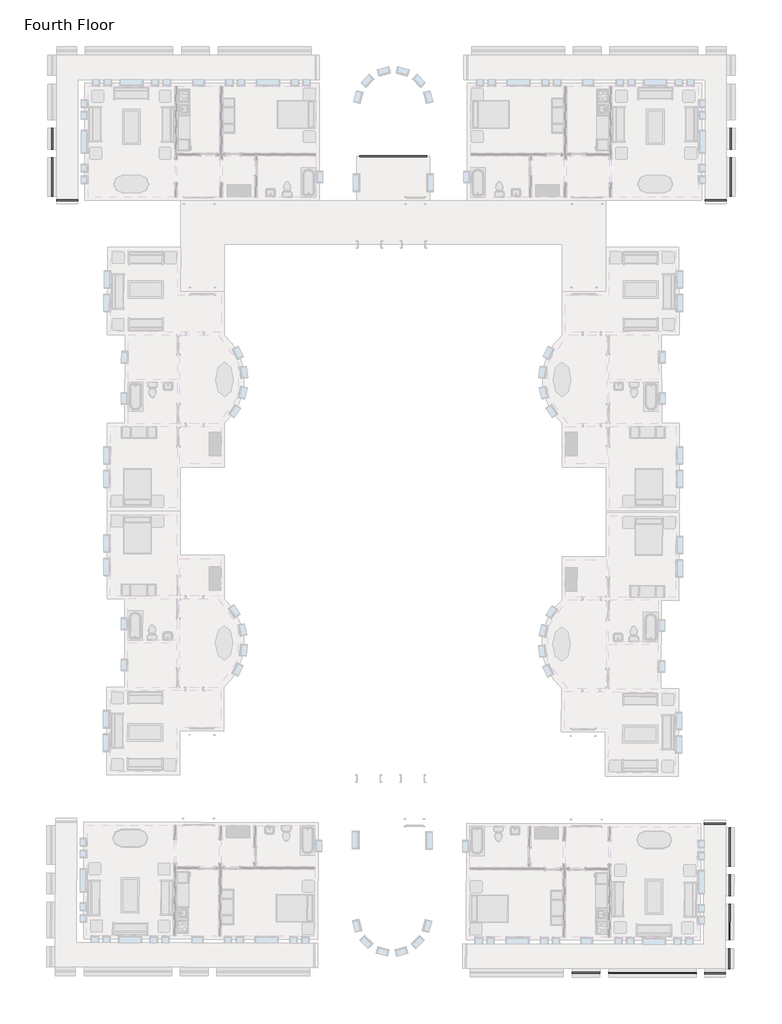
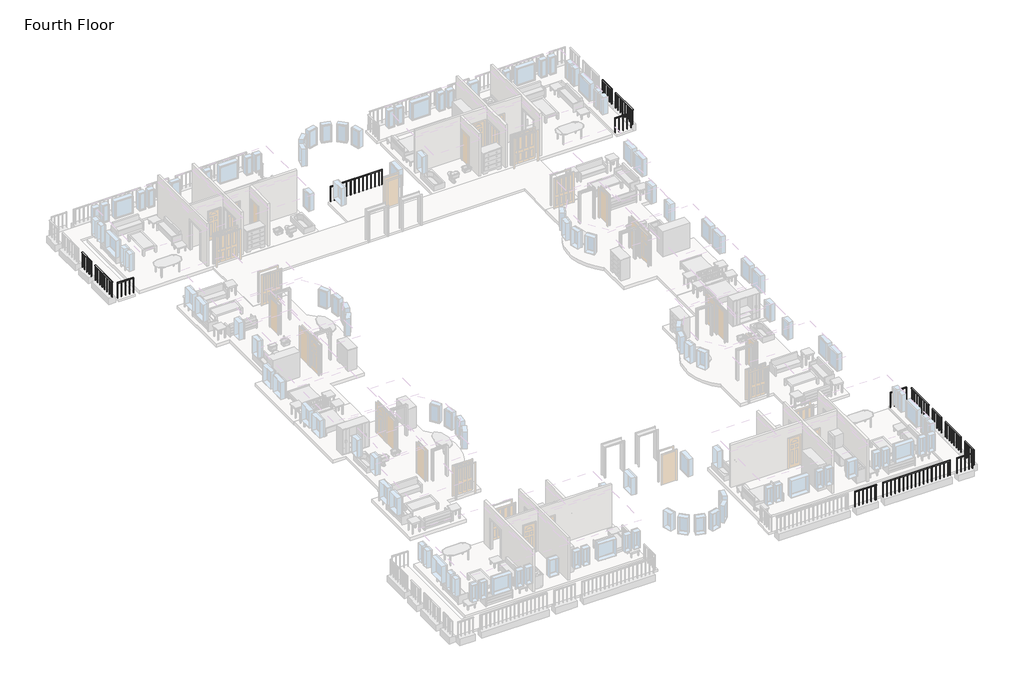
# One storey, part 5 of 8: 15 railings.
"""IFC4 building model written with IfcOpenShell, lengths in millimetres."""

from ifc_helpers import new_model, si_unit, frame, origin, place, context, project, spatial, polyline, outline, extrude, element, save

model = new_model("IFC4")

# Units and contexts
model_context = context("Model", 3, world=origin())
ifc_project = project(units=[si_unit("LENGTHUNIT", "METRE", prefix="MILLI")], contexts=[model_context])

# Site, building, storey
site = spatial("IfcSite", under=ifc_project)
building = spatial("IfcBuilding", under=site)
storey = spatial("IfcBuildingStorey", under=building, Name="Fourth Floor", Elevation=9144.0)

# Railings
placement = place(None, origin())
element("IfcRailing", 1, ObjectType="1100mm", at=placement, inside=storey, context=model_context, shape_type="SweptSolid", body=[
    extrude(outline(polyline([(-1443.3416203, 231.1188386), (-1393.3416203, 231.1188386), (-1393.3416203, -845.3811614), (-1443.3416203, -845.3811614), (-1443.3416203, 231.1188386)])), frame((0.0, 0.0, 10194.0), z_axis=(0.0, 0.0, 1.0), x_axis=(1.0, 0.0, 0.0)), (0.0, 0.0, 1.0), 50.0),
    extrude(outline(polyline([(-1430.8416203, -581.3811614), (-1405.8416203, -581.3811614), (-1405.8416203, -606.3811614), (-1430.8416203, -606.3811614), (-1430.8416203, -581.3811614)])), frame((0.0, 0.0, 9144.0), z_axis=(0.0, 0.0, 1.0), x_axis=(1.0, 0.0, 0.0)), (0.0, 0.0, 1.0), 1050.0),
    extrude(outline(polyline([(-1430.8416203, -306.3811614), (-1405.8416203, -306.3811614), (-1405.8416203, -331.3811614), (-1430.8416203, -331.3811614), (-1430.8416203, -306.3811614)])), frame((0.0, 0.0, 9144.0), z_axis=(0.0, 0.0, 1.0), x_axis=(1.0, 0.0, 0.0)), (0.0, 0.0, 1.0), 1050.0),
    extrude(outline(polyline([(-1430.8416203, -31.3811614), (-1405.8416203, -31.3811614), (-1405.8416203, -56.3811614), (-1430.8416203, -56.3811614), (-1430.8416203, -31.3811614)])), frame((0.0, 0.0, 9144.0), z_axis=(0.0, 0.0, 1.0), x_axis=(1.0, 0.0, 0.0)), (0.0, 0.0, 1.0), 1050.0),
    extrude(outline(polyline([(-1430.8416203, -820.3811614), (-1405.8416203, -820.3811614), (-1405.8416203, -845.3811614), (-1430.8416203, -845.3811614), (-1430.8416203, -820.3811614)])), frame((0.0, 0.0, 9144.0), z_axis=(0.0, 0.0, 1.0), x_axis=(1.0, 0.0, 0.0)), (0.0, 0.0, 1.0), 1050.0),
    extrude(outline(polyline([(-1430.8416203, 231.1188386), (-1405.8416203, 231.1188386), (-1405.8416203, 206.1188386), (-1430.8416203, 206.1188386), (-1430.8416203, 231.1188386)])), frame((0.0, 0.0, 9144.0), z_axis=(0.0, 0.0, 1.0), x_axis=(1.0, 0.0, 0.0)), (0.0, 0.0, 1.0), 1050.0),
])
element("IfcRailing", 2, ObjectType="1100mm", at=placement, inside=storey, context=model_context, shape_type="SweptSolid", body=[
    extrude(outline(polyline([(-1443.3416203, -1295.3811614), (-1393.3416203, -1295.3811614), (-1393.3416203, -3289.8811614), (-1443.3416203, -3289.8811614), (-1443.3416203, -1295.3811614)])), frame((0.0, 0.0, 10194.0), z_axis=(0.0, 0.0, 1.0), x_axis=(1.0, 0.0, 0.0)), (0.0, 0.0, 1.0), 50.0),
    extrude(outline(polyline([(-1430.8416203, -3207.8811614), (-1405.8416203, -3207.8811614), (-1405.8416203, -3232.8811614), (-1430.8416203, -3232.8811614), (-1430.8416203, -3207.8811614)])), frame((0.0, 0.0, 9144.0), z_axis=(0.0, 0.0, 1.0), x_axis=(1.0, 0.0, 0.0)), (0.0, 0.0, 1.0), 1050.0),
    extrude(outline(polyline([(-1430.8416203, -2932.8811614), (-1405.8416203, -2932.8811614), (-1405.8416203, -2957.8811614), (-1430.8416203, -2957.8811614), (-1430.8416203, -2932.8811614)])), frame((0.0, 0.0, 9144.0), z_axis=(0.0, 0.0, 1.0), x_axis=(1.0, 0.0, 0.0)), (0.0, 0.0, 1.0), 1050.0),
    extrude(outline(polyline([(-1430.8416203, -2657.8811614), (-1405.8416203, -2657.8811614), (-1405.8416203, -2682.8811614), (-1430.8416203, -2682.8811614), (-1430.8416203, -2657.8811614)])), frame((0.0, 0.0, 9144.0), z_axis=(0.0, 0.0, 1.0), x_axis=(1.0, 0.0, 0.0)), (0.0, 0.0, 1.0), 1050.0),
    extrude(outline(polyline([(-1430.8416203, -2382.8811614), (-1405.8416203, -2382.8811614), (-1405.8416203, -2407.8811614), (-1430.8416203, -2407.8811614), (-1430.8416203, -2382.8811614)])), frame((0.0, 0.0, 9144.0), z_axis=(0.0, 0.0, 1.0), x_axis=(1.0, 0.0, 0.0)), (0.0, 0.0, 1.0), 1050.0),
    extrude(outline(polyline([(-1430.8416203, -2107.8811614), (-1405.8416203, -2107.8811614), (-1405.8416203, -2132.8811614), (-1430.8416203, -2132.8811614), (-1430.8416203, -2107.8811614)])), frame((0.0, 0.0, 9144.0), z_axis=(0.0, 0.0, 1.0), x_axis=(1.0, 0.0, 0.0)), (0.0, 0.0, 1.0), 1050.0),
    extrude(outline(polyline([(-1430.8416203, -1832.8811614), (-1405.8416203, -1832.8811614), (-1405.8416203, -1857.8811614), (-1430.8416203, -1857.8811614), (-1430.8416203, -1832.8811614)])), frame((0.0, 0.0, 9144.0), z_axis=(0.0, 0.0, 1.0), x_axis=(1.0, 0.0, 0.0)), (0.0, 0.0, 1.0), 1050.0),
    extrude(outline(polyline([(-1430.8416203, -1557.8811614), (-1405.8416203, -1557.8811614), (-1405.8416203, -1582.8811614), (-1430.8416203, -1582.8811614), (-1430.8416203, -1557.8811614)])), frame((0.0, 0.0, 9144.0), z_axis=(0.0, 0.0, 1.0), x_axis=(1.0, 0.0, 0.0)), (0.0, 0.0, 1.0), 1050.0),
    extrude(outline(polyline([(-1430.8416203, -3264.8811614), (-1405.8416203, -3264.8811614), (-1405.8416203, -3289.8811614), (-1430.8416203, -3289.8811614), (-1430.8416203, -3264.8811614)])), frame((0.0, 0.0, 9144.0), z_axis=(0.0, 0.0, 1.0), x_axis=(1.0, 0.0, 0.0)), (0.0, 0.0, 1.0), 1050.0),
    extrude(outline(polyline([(-1430.8416203, -1295.3811614), (-1405.8416203, -1295.3811614), (-1405.8416203, -1320.3811614), (-1430.8416203, -1320.3811614), (-1430.8416203, -1295.3811614)])), frame((0.0, 0.0, 9144.0), z_axis=(0.0, 0.0, 1.0), x_axis=(1.0, 0.0, 0.0)), (0.0, 0.0, 1.0), 1050.0),
])
element("IfcRailing", 3, ObjectType="1100mm", at=placement, inside=storey, context=model_context, shape_type="SweptSolid", body=[
    extrude(outline(polyline([(-1643.3416203, -3489.8811614), (-1643.3416203, -3539.8811614), (-2743.3416203, -3539.8811614), (-2743.3416203, -3489.8811614), (-1643.3416203, -3489.8811614)])), frame((0.0, 0.0, 10194.0), z_axis=(0.0, 0.0, 1.0), x_axis=(1.0, 0.0, 0.0)), (0.0, 0.0, 1.0), 50.0),
    extrude(outline(polyline([(-2455.8416203, -3502.3811614), (-2455.8416203, -3527.3811614), (-2480.8416203, -3527.3811614), (-2480.8416203, -3502.3811614), (-2455.8416203, -3502.3811614)])), frame((0.0, 0.0, 9144.0), z_axis=(0.0, 0.0, 1.0), x_axis=(1.0, 0.0, 0.0)), (0.0, 0.0, 1.0), 1050.0),
    extrude(outline(polyline([(-2180.8416203, -3502.3811614), (-2180.8416203, -3527.3811614), (-2205.8416203, -3527.3811614), (-2205.8416203, -3502.3811614), (-2180.8416203, -3502.3811614)])), frame((0.0, 0.0, 9144.0), z_axis=(0.0, 0.0, 1.0), x_axis=(1.0, 0.0, 0.0)), (0.0, 0.0, 1.0), 1050.0),
    extrude(outline(polyline([(-1905.8416203, -3502.3811614), (-1905.8416203, -3527.3811614), (-1930.8416203, -3527.3811614), (-1930.8416203, -3502.3811614), (-1905.8416203, -3502.3811614)])), frame((0.0, 0.0, 9144.0), z_axis=(0.0, 0.0, 1.0), x_axis=(1.0, 0.0, 0.0)), (0.0, 0.0, 1.0), 1050.0),
    extrude(outline(polyline([(-2718.3416203, -3502.3811614), (-2718.3416203, -3527.3811614), (-2743.3416203, -3527.3811614), (-2743.3416203, -3502.3811614), (-2718.3416203, -3502.3811614)])), frame((0.0, 0.0, 9144.0), z_axis=(0.0, 0.0, 1.0), x_axis=(1.0, 0.0, 0.0)), (0.0, 0.0, 1.0), 1050.0),
    extrude(outline(polyline([(-1643.3416203, -3502.3811614), (-1643.3416203, -3527.3811614), (-1668.3416203, -3527.3811614), (-1668.3416203, -3502.3811614), (-1643.3416203, -3502.3811614)])), frame((0.0, 0.0, 9144.0), z_axis=(0.0, 0.0, 1.0), x_axis=(1.0, 0.0, 0.0)), (0.0, 0.0, 1.0), 1050.0),
])
element("IfcRailing", 4, ObjectType="1100mm", at=placement, inside=storey, context=model_context, shape_type="SweptSolid", body=[
    extrude(outline(polyline([(-20709.0916203, -1253.8811614), (-20709.0916203, -1203.8811614), (-17205.0916203, -1203.8811614), (-17205.0916203, -1253.8811614), (-20709.0916203, -1253.8811614)])), frame((0.0, 0.0, 10194.0), z_axis=(0.0, 0.0, 1.0), x_axis=(1.0, 0.0, 0.0)), (0.0, 0.0, 1.0), 50.0),
    extrude(outline(polyline([(-17421.5916203, -1241.3811614), (-17421.5916203, -1216.3811614), (-17396.5916203, -1216.3811614), (-17396.5916203, -1241.3811614), (-17421.5916203, -1241.3811614)])), frame((0.0, 0.0, 9144.0), z_axis=(0.0, 0.0, 1.0), x_axis=(1.0, 0.0, 0.0)), (0.0, 0.0, 1.0), 1050.0),
    extrude(outline(polyline([(-17696.5916203, -1241.3811614), (-17696.5916203, -1216.3811614), (-17671.5916203, -1216.3811614), (-17671.5916203, -1241.3811614), (-17696.5916203, -1241.3811614)])), frame((0.0, 0.0, 9144.0), z_axis=(0.0, 0.0, 1.0), x_axis=(1.0, 0.0, 0.0)), (0.0, 0.0, 1.0), 1050.0),
    extrude(outline(polyline([(-17971.5916203, -1241.3811614), (-17971.5916203, -1216.3811614), (-17946.5916203, -1216.3811614), (-17946.5916203, -1241.3811614), (-17971.5916203, -1241.3811614)])), frame((0.0, 0.0, 9144.0), z_axis=(0.0, 0.0, 1.0), x_axis=(1.0, 0.0, 0.0)), (0.0, 0.0, 1.0), 1050.0),
    extrude(outline(polyline([(-18246.5916203, -1241.3811614), (-18246.5916203, -1216.3811614), (-18221.5916203, -1216.3811614), (-18221.5916203, -1241.3811614), (-18246.5916203, -1241.3811614)])), frame((0.0, 0.0, 9144.0), z_axis=(0.0, 0.0, 1.0), x_axis=(1.0, 0.0, 0.0)), (0.0, 0.0, 1.0), 1050.0),
    extrude(outline(polyline([(-18521.5916203, -1241.3811614), (-18521.5916203, -1216.3811614), (-18496.5916203, -1216.3811614), (-18496.5916203, -1241.3811614), (-18521.5916203, -1241.3811614)])), frame((0.0, 0.0, 9144.0), z_axis=(0.0, 0.0, 1.0), x_axis=(1.0, 0.0, 0.0)), (0.0, 0.0, 1.0), 1050.0),
    extrude(outline(polyline([(-18796.5916203, -1241.3811614), (-18796.5916203, -1216.3811614), (-18771.5916203, -1216.3811614), (-18771.5916203, -1241.3811614), (-18796.5916203, -1241.3811614)])), frame((0.0, 0.0, 9144.0), z_axis=(0.0, 0.0, 1.0), x_axis=(1.0, 0.0, 0.0)), (0.0, 0.0, 1.0), 1050.0),
    extrude(outline(polyline([(-19071.5916203, -1241.3811614), (-19071.5916203, -1216.3811614), (-19046.5916203, -1216.3811614), (-19046.5916203, -1241.3811614), (-19071.5916203, -1241.3811614)])), frame((0.0, 0.0, 9144.0), z_axis=(0.0, 0.0, 1.0), x_axis=(1.0, 0.0, 0.0)), (0.0, 0.0, 1.0), 1050.0),
    extrude(outline(polyline([(-19346.5916203, -1241.3811614), (-19346.5916203, -1216.3811614), (-19321.5916203, -1216.3811614), (-19321.5916203, -1241.3811614), (-19346.5916203, -1241.3811614)])), frame((0.0, 0.0, 9144.0), z_axis=(0.0, 0.0, 1.0), x_axis=(1.0, 0.0, 0.0)), (0.0, 0.0, 1.0), 1050.0),
    extrude(outline(polyline([(-19621.5916203, -1241.3811614), (-19621.5916203, -1216.3811614), (-19596.5916203, -1216.3811614), (-19596.5916203, -1241.3811614), (-19621.5916203, -1241.3811614)])), frame((0.0, 0.0, 9144.0), z_axis=(0.0, 0.0, 1.0), x_axis=(1.0, 0.0, 0.0)), (0.0, 0.0, 1.0), 1050.0),
    extrude(outline(polyline([(-19896.5916203, -1241.3811614), (-19896.5916203, -1216.3811614), (-19871.5916203, -1216.3811614), (-19871.5916203, -1241.3811614), (-19896.5916203, -1241.3811614)])), frame((0.0, 0.0, 9144.0), z_axis=(0.0, 0.0, 1.0), x_axis=(1.0, 0.0, 0.0)), (0.0, 0.0, 1.0), 1050.0),
    extrude(outline(polyline([(-20171.5916203, -1241.3811614), (-20171.5916203, -1216.3811614), (-20146.5916203, -1216.3811614), (-20146.5916203, -1241.3811614), (-20171.5916203, -1241.3811614)])), frame((0.0, 0.0, 9144.0), z_axis=(0.0, 0.0, 1.0), x_axis=(1.0, 0.0, 0.0)), (0.0, 0.0, 1.0), 1050.0),
    extrude(outline(polyline([(-20446.5916203, -1241.3811614), (-20446.5916203, -1216.3811614), (-20421.5916203, -1216.3811614), (-20421.5916203, -1241.3811614), (-20446.5916203, -1241.3811614)])), frame((0.0, 0.0, 9144.0), z_axis=(0.0, 0.0, 1.0), x_axis=(1.0, 0.0, 0.0)), (0.0, 0.0, 1.0), 1050.0),
    extrude(outline(polyline([(-17230.0916203, -1241.3811614), (-17230.0916203, -1216.3811614), (-17205.0916203, -1216.3811614), (-17205.0916203, -1241.3811614), (-17230.0916203, -1241.3811614)])), frame((0.0, 0.0, 9144.0), z_axis=(0.0, 0.0, 1.0), x_axis=(1.0, 0.0, 0.0)), (0.0, 0.0, 1.0), 1050.0),
    extrude(outline(polyline([(-20709.0916203, -1241.3811614), (-20709.0916203, -1216.3811614), (-20684.0916203, -1216.3811614), (-20684.0916203, -1241.3811614), (-20709.0916203, -1241.3811614)])), frame((0.0, 0.0, 9144.0), z_axis=(0.0, 0.0, 1.0), x_axis=(1.0, 0.0, 0.0)), (0.0, 0.0, 1.0), 1050.0),
])
element("IfcRailing", 5, ObjectType="1100mm", at=placement, inside=storey, context=model_context, shape_type="SweptSolid", body=[
    extrude(outline(polyline([(-36708.8416203, 231.1188386), (-36658.8416203, 231.1188386), (-36658.8416203, -845.3811614), (-36708.8416203, -845.3811614), (-36708.8416203, 231.1188386)])), frame((0.0, 0.0, 10194.0), z_axis=(0.0, 0.0, 1.0), x_axis=(1.0, 0.0, 0.0)), (0.0, 0.0, 1.0), 50.0),
    extrude(outline(polyline([(-36671.3416203, -581.3811614), (-36671.3416203, -606.3811614), (-36696.3416203, -606.3811614), (-36696.3416203, -581.3811614), (-36671.3416203, -581.3811614)])), frame((0.0, 0.0, 9144.0), z_axis=(0.0, 0.0, 1.0), x_axis=(1.0, 0.0, 0.0)), (0.0, 0.0, 1.0), 1050.0),
    extrude(outline(polyline([(-36671.3416203, -306.3811614), (-36671.3416203, -331.3811614), (-36696.3416203, -331.3811614), (-36696.3416203, -306.3811614), (-36671.3416203, -306.3811614)])), frame((0.0, 0.0, 9144.0), z_axis=(0.0, 0.0, 1.0), x_axis=(1.0, 0.0, 0.0)), (0.0, 0.0, 1.0), 1050.0),
    extrude(outline(polyline([(-36671.3416203, -31.3811614), (-36671.3416203, -56.3811614), (-36696.3416203, -56.3811614), (-36696.3416203, -31.3811614), (-36671.3416203, -31.3811614)])), frame((0.0, 0.0, 9144.0), z_axis=(0.0, 0.0, 1.0), x_axis=(1.0, 0.0, 0.0)), (0.0, 0.0, 1.0), 1050.0),
    extrude(outline(polyline([(-36671.3416203, -820.3811614), (-36671.3416203, -845.3811614), (-36696.3416203, -845.3811614), (-36696.3416203, -820.3811614), (-36671.3416203, -820.3811614)])), frame((0.0, 0.0, 9144.0), z_axis=(0.0, 0.0, 1.0), x_axis=(1.0, 0.0, 0.0)), (0.0, 0.0, 1.0), 1050.0),
    extrude(outline(polyline([(-36671.3416203, 231.1188386), (-36671.3416203, 206.1188386), (-36696.3416203, 206.1188386), (-36696.3416203, 231.1188386), (-36671.3416203, 231.1188386)])), frame((0.0, 0.0, 9144.0), z_axis=(0.0, 0.0, 1.0), x_axis=(1.0, 0.0, 0.0)), (0.0, 0.0, 1.0), 1050.0),
])
element("IfcRailing", 6, ObjectType="1100mm", at=placement, inside=storey, context=model_context, shape_type="SweptSolid", body=[
    extrude(outline(polyline([(-36708.8416203, -1295.3811614), (-36658.8416203, -1295.3811614), (-36658.8416203, -3289.8811614), (-36708.8416203, -3289.8811614), (-36708.8416203, -1295.3811614)])), frame((0.0, 0.0, 10194.0), z_axis=(0.0, 0.0, 1.0), x_axis=(1.0, 0.0, 0.0)), (0.0, 0.0, 1.0), 50.0),
    extrude(outline(polyline([(-36671.3416203, -3207.8811614), (-36671.3416203, -3232.8811614), (-36696.3416203, -3232.8811614), (-36696.3416203, -3207.8811614), (-36671.3416203, -3207.8811614)])), frame((0.0, 0.0, 9144.0), z_axis=(0.0, 0.0, 1.0), x_axis=(1.0, 0.0, 0.0)), (0.0, 0.0, 1.0), 1050.0),
    extrude(outline(polyline([(-36671.3416203, -2932.8811614), (-36671.3416203, -2957.8811614), (-36696.3416203, -2957.8811614), (-36696.3416203, -2932.8811614), (-36671.3416203, -2932.8811614)])), frame((0.0, 0.0, 9144.0), z_axis=(0.0, 0.0, 1.0), x_axis=(1.0, 0.0, 0.0)), (0.0, 0.0, 1.0), 1050.0),
    extrude(outline(polyline([(-36671.3416203, -2657.8811614), (-36671.3416203, -2682.8811614), (-36696.3416203, -2682.8811614), (-36696.3416203, -2657.8811614), (-36671.3416203, -2657.8811614)])), frame((0.0, 0.0, 9144.0), z_axis=(0.0, 0.0, 1.0), x_axis=(1.0, 0.0, 0.0)), (0.0, 0.0, 1.0), 1050.0),
    extrude(outline(polyline([(-36671.3416203, -2382.8811614), (-36671.3416203, -2407.8811614), (-36696.3416203, -2407.8811614), (-36696.3416203, -2382.8811614), (-36671.3416203, -2382.8811614)])), frame((0.0, 0.0, 9144.0), z_axis=(0.0, 0.0, 1.0), x_axis=(1.0, 0.0, 0.0)), (0.0, 0.0, 1.0), 1050.0),
    extrude(outline(polyline([(-36671.3416203, -2107.8811614), (-36671.3416203, -2132.8811614), (-36696.3416203, -2132.8811614), (-36696.3416203, -2107.8811614), (-36671.3416203, -2107.8811614)])), frame((0.0, 0.0, 9144.0), z_axis=(0.0, 0.0, 1.0), x_axis=(1.0, 0.0, 0.0)), (0.0, 0.0, 1.0), 1050.0),
    extrude(outline(polyline([(-36671.3416203, -1832.8811614), (-36671.3416203, -1857.8811614), (-36696.3416203, -1857.8811614), (-36696.3416203, -1832.8811614), (-36671.3416203, -1832.8811614)])), frame((0.0, 0.0, 9144.0), z_axis=(0.0, 0.0, 1.0), x_axis=(1.0, 0.0, 0.0)), (0.0, 0.0, 1.0), 1050.0),
    extrude(outline(polyline([(-36671.3416203, -1557.8811614), (-36671.3416203, -1582.8811614), (-36696.3416203, -1582.8811614), (-36696.3416203, -1557.8811614), (-36671.3416203, -1557.8811614)])), frame((0.0, 0.0, 9144.0), z_axis=(0.0, 0.0, 1.0), x_axis=(1.0, 0.0, 0.0)), (0.0, 0.0, 1.0), 1050.0),
    extrude(outline(polyline([(-36671.3416203, -3264.8811614), (-36671.3416203, -3289.8811614), (-36696.3416203, -3289.8811614), (-36696.3416203, -3264.8811614), (-36671.3416203, -3264.8811614)])), frame((0.0, 0.0, 9144.0), z_axis=(0.0, 0.0, 1.0), x_axis=(1.0, 0.0, 0.0)), (0.0, 0.0, 1.0), 1050.0),
    extrude(outline(polyline([(-36671.3416203, -1295.3811614), (-36671.3416203, -1320.3811614), (-36696.3416203, -1320.3811614), (-36696.3416203, -1295.3811614), (-36671.3416203, -1295.3811614)])), frame((0.0, 0.0, 9144.0), z_axis=(0.0, 0.0, 1.0), x_axis=(1.0, 0.0, 0.0)), (0.0, 0.0, 1.0), 1050.0),
])
element("IfcRailing", 7, ObjectType="1100mm", at=placement, inside=storey, context=model_context, shape_type="SweptSolid", body=[
    extrude(outline(polyline([(-36458.8416203, -3539.8811614), (-36458.8416203, -3489.8811614), (-35358.8416203, -3489.8811614), (-35358.8416203, -3539.8811614), (-36458.8416203, -3539.8811614)])), frame((0.0, 0.0, 10194.0), z_axis=(0.0, 0.0, 1.0), x_axis=(1.0, 0.0, 0.0)), (0.0, 0.0, 1.0), 50.0),
    extrude(outline(polyline([(-35646.3416203, -3502.3811614), (-35621.3416203, -3502.3811614), (-35621.3416203, -3527.3811614), (-35646.3416203, -3527.3811614), (-35646.3416203, -3502.3811614)])), frame((0.0, 0.0, 9144.0), z_axis=(0.0, 0.0, 1.0), x_axis=(1.0, 0.0, 0.0)), (0.0, 0.0, 1.0), 1050.0),
    extrude(outline(polyline([(-35921.3416203, -3502.3811614), (-35896.3416203, -3502.3811614), (-35896.3416203, -3527.3811614), (-35921.3416203, -3527.3811614), (-35921.3416203, -3502.3811614)])), frame((0.0, 0.0, 9144.0), z_axis=(0.0, 0.0, 1.0), x_axis=(1.0, 0.0, 0.0)), (0.0, 0.0, 1.0), 1050.0),
    extrude(outline(polyline([(-36196.3416203, -3502.3811614), (-36171.3416203, -3502.3811614), (-36171.3416203, -3527.3811614), (-36196.3416203, -3527.3811614), (-36196.3416203, -3502.3811614)])), frame((0.0, 0.0, 9144.0), z_axis=(0.0, 0.0, 1.0), x_axis=(1.0, 0.0, 0.0)), (0.0, 0.0, 1.0), 1050.0),
    extrude(outline(polyline([(-35383.8416203, -3502.3811614), (-35358.8416203, -3502.3811614), (-35358.8416203, -3527.3811614), (-35383.8416203, -3527.3811614), (-35383.8416203, -3502.3811614)])), frame((0.0, 0.0, 9144.0), z_axis=(0.0, 0.0, 1.0), x_axis=(1.0, 0.0, 0.0)), (0.0, 0.0, 1.0), 1050.0),
    extrude(outline(polyline([(-36458.8416203, -3502.3811614), (-36433.8416203, -3502.3811614), (-36433.8416203, -3527.3811614), (-36458.8416203, -3527.3811614), (-36458.8416203, -3502.3811614)])), frame((0.0, 0.0, 9144.0), z_axis=(0.0, 0.0, 1.0), x_axis=(1.0, 0.0, 0.0)), (0.0, 0.0, 1.0), 1050.0),
])
element("IfcRailing", 8, ObjectType="1100mm", at=placement, inside=storey, context=model_context, shape_type="SweptSolid", body=[
    extrude(outline(polyline([(-9662.7593629, -43678.1904497), (-9662.6146202, -43628.1906592), (-8212.6206958, -43632.3881974), (-8212.7654385, -43682.3879879), (-9662.7593629, -43678.1904497)])), frame((0.0, 0.0, 10194.0), z_axis=(0.0, 0.0, 1.0), x_axis=(1.0, 0.0, 0.0)), (0.0, 0.0, 1.0), 50.0),
    extrude(outline(polyline([(-8300.1565149, -43644.6348453), (-8275.1566196, -43644.7072166), (-8275.228991, -43669.7071119), (-8300.2288862, -43669.6347405), (-8300.1565149, -43644.6348453)])), frame((0.0, 0.0, 9144.0), z_axis=(0.0, 0.0, 1.0), x_axis=(1.0, 0.0, 0.0)), (0.0, 0.0, 1.0), 1050.0),
    extrude(outline(polyline([(-8575.1553626, -43643.8387604), (-8550.1554673, -43643.9111318), (-8550.2278387, -43668.911027), (-8575.2277339, -43668.8386557), (-8575.1553626, -43643.8387604)])), frame((0.0, 0.0, 9144.0), z_axis=(0.0, 0.0, 1.0), x_axis=(1.0, 0.0, 0.0)), (0.0, 0.0, 1.0), 1050.0),
    extrude(outline(polyline([(-8850.1542103, -43643.0426756), (-8825.1543151, -43643.115047), (-8825.2266864, -43668.1149422), (-8850.2265816, -43668.0425709), (-8850.1542103, -43643.0426756)])), frame((0.0, 0.0, 9144.0), z_axis=(0.0, 0.0, 1.0), x_axis=(1.0, 0.0, 0.0)), (0.0, 0.0, 1.0), 1050.0),
    extrude(outline(polyline([(-9125.153058, -43642.2465908), (-9100.1531628, -43642.3189621), (-9100.2255341, -43667.3188574), (-9125.2254294, -43667.246486), (-9125.153058, -43642.2465908)])), frame((0.0, 0.0, 9144.0), z_axis=(0.0, 0.0, 1.0), x_axis=(1.0, 0.0, 0.0)), (0.0, 0.0, 1.0), 1050.0),
    extrude(outline(polyline([(-9400.1519057, -43641.450506), (-9375.1520105, -43641.5228773), (-9375.2243818, -43666.5227726), (-9400.2242771, -43666.4504012), (-9400.1519057, -43641.450506)])), frame((0.0, 0.0, 9144.0), z_axis=(0.0, 0.0, 1.0), x_axis=(1.0, 0.0, 0.0)), (0.0, 0.0, 1.0), 1050.0),
    extrude(outline(polyline([(-8237.6567767, -43644.8157736), (-8212.6568815, -43644.888145), (-8212.7292528, -43669.8880402), (-8237.7291481, -43669.8156689), (-8237.6567767, -43644.8157736)])), frame((0.0, 0.0, 9144.0), z_axis=(0.0, 0.0, 1.0), x_axis=(1.0, 0.0, 0.0)), (0.0, 0.0, 1.0), 1050.0),
    extrude(outline(polyline([(-9662.6508058, -43640.6906068), (-9637.6509106, -43640.7629782), (-9637.7232819, -43665.7628734), (-9662.7231772, -43665.6905021), (-9662.6508058, -43640.6906068)])), frame((0.0, 0.0, 9144.0), z_axis=(0.0, 0.0, 1.0), x_axis=(1.0, 0.0, 0.0)), (0.0, 0.0, 1.0), 1050.0),
])
element("IfcRailing", 9, ObjectType="1100mm", at=placement, inside=storey, context=model_context, shape_type="SweptSolid", body=[
    extrude(outline(polyline([(-7762.7673241, -43683.6906721), (-7762.6225814, -43633.6908816), (-3212.6416463, -43646.8624669), (-3212.786389, -43696.8622574), (-7762.7673241, -43683.6906721)])), frame((0.0, 0.0, 10194.0), z_axis=(0.0, 0.0, 1.0), x_axis=(1.0, 0.0, 0.0)), (0.0, 0.0, 1.0), 50.0),
    extrude(outline(polyline([(-3375.1771511, -43658.8920008), (-3350.1772558, -43658.9643721), (-3350.2496272, -43683.9642674), (-3375.2495224, -43683.891896), (-3375.1771511, -43658.8920008)])), frame((0.0, 0.0, 9144.0), z_axis=(0.0, 0.0, 1.0), x_axis=(1.0, 0.0, 0.0)), (0.0, 0.0, 1.0), 1050.0),
    extrude(outline(polyline([(-3650.1759988, -43658.095916), (-3625.1761036, -43658.1682873), (-3625.2484749, -43683.1681826), (-3650.2483702, -43683.0958112), (-3650.1759988, -43658.095916)])), frame((0.0, 0.0, 9144.0), z_axis=(0.0, 0.0, 1.0), x_axis=(1.0, 0.0, 0.0)), (0.0, 0.0, 1.0), 1050.0),
    extrude(outline(polyline([(-3925.1748465, -43657.2998311), (-3900.1749513, -43657.3722025), (-3900.2473226, -43682.3720977), (-3925.2472179, -43682.2997264), (-3925.1748465, -43657.2998311)])), frame((0.0, 0.0, 9144.0), z_axis=(0.0, 0.0, 1.0), x_axis=(1.0, 0.0, 0.0)), (0.0, 0.0, 1.0), 1050.0),
    extrude(outline(polyline([(-4200.1736943, -43656.5037463), (-4175.173799, -43656.5761177), (-4175.2461704, -43681.5760129), (-4200.2460656, -43681.5036416), (-4200.1736943, -43656.5037463)])), frame((0.0, 0.0, 9144.0), z_axis=(0.0, 0.0, 1.0), x_axis=(1.0, 0.0, 0.0)), (0.0, 0.0, 1.0), 1050.0),
    extrude(outline(polyline([(-4475.172542, -43655.7076615), (-4450.1726467, -43655.7800328), (-4450.2450181, -43680.7799281), (-4475.2449133, -43680.7075567), (-4475.172542, -43655.7076615)])), frame((0.0, 0.0, 9144.0), z_axis=(0.0, 0.0, 1.0), x_axis=(1.0, 0.0, 0.0)), (0.0, 0.0, 1.0), 1050.0),
    extrude(outline(polyline([(-4750.1713897, -43654.9115767), (-4725.1714945, -43654.983948), (-4725.2438658, -43679.9838433), (-4750.243761, -43679.9114719), (-4750.1713897, -43654.9115767)])), frame((0.0, 0.0, 9144.0), z_axis=(0.0, 0.0, 1.0), x_axis=(1.0, 0.0, 0.0)), (0.0, 0.0, 1.0), 1050.0),
    extrude(outline(polyline([(-5025.1702374, -43654.1154918), (-5000.1703422, -43654.1878632), (-5000.2427135, -43679.1877584), (-5025.2426088, -43679.1153871), (-5025.1702374, -43654.1154918)])), frame((0.0, 0.0, 9144.0), z_axis=(0.0, 0.0, 1.0), x_axis=(1.0, 0.0, 0.0)), (0.0, 0.0, 1.0), 1050.0),
    extrude(outline(polyline([(-5300.1690851, -43653.319407), (-5275.1691899, -43653.3917784), (-5275.2415612, -43678.3916736), (-5300.2414565, -43678.3193023), (-5300.1690851, -43653.319407)])), frame((0.0, 0.0, 9144.0), z_axis=(0.0, 0.0, 1.0), x_axis=(1.0, 0.0, 0.0)), (0.0, 0.0, 1.0), 1050.0),
    extrude(outline(polyline([(-5575.1679329, -43652.5233222), (-5550.1680376, -43652.5956935), (-5550.240409, -43677.5955888), (-5575.2403042, -43677.5232174), (-5575.1679329, -43652.5233222)])), frame((0.0, 0.0, 9144.0), z_axis=(0.0, 0.0, 1.0), x_axis=(1.0, 0.0, 0.0)), (0.0, 0.0, 1.0), 1050.0),
    extrude(outline(polyline([(-5850.1667806, -43651.7272374), (-5825.1668853, -43651.7996087), (-5825.2392567, -43676.799504), (-5850.2391519, -43676.7271326), (-5850.1667806, -43651.7272374)])), frame((0.0, 0.0, 9144.0), z_axis=(0.0, 0.0, 1.0), x_axis=(1.0, 0.0, 0.0)), (0.0, 0.0, 1.0), 1050.0),
    extrude(outline(polyline([(-6125.1656283, -43650.9311525), (-6100.1657331, -43651.0035239), (-6100.2381044, -43676.0034191), (-6125.2379997, -43675.9310478), (-6125.1656283, -43650.9311525)])), frame((0.0, 0.0, 9144.0), z_axis=(0.0, 0.0, 1.0), x_axis=(1.0, 0.0, 0.0)), (0.0, 0.0, 1.0), 1050.0),
    extrude(outline(polyline([(-6400.164476, -43650.1350677), (-6375.1645808, -43650.2074391), (-6375.2369521, -43675.2073343), (-6400.2368474, -43675.134963), (-6400.164476, -43650.1350677)])), frame((0.0, 0.0, 9144.0), z_axis=(0.0, 0.0, 1.0), x_axis=(1.0, 0.0, 0.0)), (0.0, 0.0, 1.0), 1050.0),
    extrude(outline(polyline([(-6675.1633238, -43649.3389829), (-6650.1634285, -43649.4113542), (-6650.2357999, -43674.4112495), (-6675.2356951, -43674.3388781), (-6675.1633238, -43649.3389829)])), frame((0.0, 0.0, 9144.0), z_axis=(0.0, 0.0, 1.0), x_axis=(1.0, 0.0, 0.0)), (0.0, 0.0, 1.0), 1050.0),
    extrude(outline(polyline([(-6950.1621715, -43648.5428981), (-6925.1622762, -43648.6152694), (-6925.2346476, -43673.6151647), (-6950.2345428, -43673.5427933), (-6950.1621715, -43648.5428981)])), frame((0.0, 0.0, 9144.0), z_axis=(0.0, 0.0, 1.0), x_axis=(1.0, 0.0, 0.0)), (0.0, 0.0, 1.0), 1050.0),
    extrude(outline(polyline([(-7225.1610192, -43647.7468132), (-7200.161124, -43647.8191846), (-7200.2334953, -43672.8190798), (-7225.2333906, -43672.7467085), (-7225.1610192, -43647.7468132)])), frame((0.0, 0.0, 9144.0), z_axis=(0.0, 0.0, 1.0), x_axis=(1.0, 0.0, 0.0)), (0.0, 0.0, 1.0), 1050.0),
    extrude(outline(polyline([(-7500.1598669, -43646.9507284), (-7475.1599717, -43647.0230998), (-7475.232343, -43672.022995), (-7500.2322383, -43671.9506237), (-7500.1598669, -43646.9507284)])), frame((0.0, 0.0, 9144.0), z_axis=(0.0, 0.0, 1.0), x_axis=(1.0, 0.0, 0.0)), (0.0, 0.0, 1.0), 1050.0),
    extrude(outline(polyline([(-3237.6777272, -43659.2900432), (-3212.677832, -43659.3624146), (-3212.7502033, -43684.3623098), (-3237.7500986, -43684.2899385), (-3237.6777272, -43659.2900432)])), frame((0.0, 0.0, 9144.0), z_axis=(0.0, 0.0, 1.0), x_axis=(1.0, 0.0, 0.0)), (0.0, 0.0, 1.0), 1050.0),
    extrude(outline(polyline([(-7762.658767, -43646.1908293), (-7737.6588718, -43646.2632006), (-7737.7312431, -43671.2630958), (-7762.7311384, -43671.1907245), (-7762.658767, -43646.1908293)])), frame((0.0, 0.0, 9144.0), z_axis=(0.0, 0.0, 1.0), x_axis=(1.0, 0.0, 0.0)), (0.0, 0.0, 1.0), 1050.0),
])
element("IfcRailing", 10, ObjectType="1100mm", at=placement, inside=storey, context=model_context, shape_type="SweptSolid", body=[
    extrude(outline(polyline([(-2762.7882745, -43698.1649417), (-2762.6435318, -43648.1651512), (-1712.6479315, -43651.2047478), (-1712.7926741, -43701.2045383), (-2762.7882745, -43698.1649417)])), frame((0.0, 0.0, 10194.0), z_axis=(0.0, 0.0, 1.0), x_axis=(1.0, 0.0, 0.0)), (0.0, 0.0, 1.0), 50.0),
    extrude(outline(polyline([(-1950.183122, -43663.0171676), (-1925.1832267, -43663.089539), (-1925.2555981, -43688.0894342), (-1950.2554933, -43688.0170629), (-1950.183122, -43663.0171676)])), frame((0.0, 0.0, 9144.0), z_axis=(0.0, 0.0, 1.0), x_axis=(1.0, 0.0, 0.0)), (0.0, 0.0, 1.0), 1050.0),
    extrude(outline(polyline([(-2225.1819697, -43662.2210828), (-2200.1820745, -43662.2934542), (-2200.2544458, -43687.2933494), (-2225.254341, -43687.2209781), (-2225.1819697, -43662.2210828)])), frame((0.0, 0.0, 9144.0), z_axis=(0.0, 0.0, 1.0), x_axis=(1.0, 0.0, 0.0)), (0.0, 0.0, 1.0), 1050.0),
    extrude(outline(polyline([(-2500.1808174, -43661.424998), (-2475.1809222, -43661.4973693), (-2475.2532935, -43686.4972646), (-2500.2531888, -43686.4248932), (-2500.1808174, -43661.424998)])), frame((0.0, 0.0, 9144.0), z_axis=(0.0, 0.0, 1.0), x_axis=(1.0, 0.0, 0.0)), (0.0, 0.0, 1.0), 1050.0),
    extrude(outline(polyline([(-1737.6840124, -43663.6323241), (-1712.6841171, -43663.7046954), (-1712.7564885, -43688.7045907), (-1737.7563837, -43688.6322193), (-1737.6840124, -43663.6323241)])), frame((0.0, 0.0, 9144.0), z_axis=(0.0, 0.0, 1.0), x_axis=(1.0, 0.0, 0.0)), (0.0, 0.0, 1.0), 1050.0),
    extrude(outline(polyline([(-2762.6797175, -43660.6650988), (-2737.6798223, -43660.7374702), (-2737.7521936, -43685.7373654), (-2762.7520889, -43685.6649941), (-2762.6797175, -43660.6650988)])), frame((0.0, 0.0, 9144.0), z_axis=(0.0, 0.0, 1.0), x_axis=(1.0, 0.0, 0.0)), (0.0, 0.0, 1.0), 1050.0),
])
element("IfcRailing", 11, ObjectType="1100mm", at=placement, inside=storey, context=model_context, shape_type="SweptSolid", body=[
    extrude(outline(polyline([(-1462.0700082, -43451.9292993), (-1512.0697987, -43451.7845566), (-1509.0302021, -42401.7889562), (-1459.0304116, -42401.9336989), (-1462.0700082, -43451.9292993)])), frame((0.0, 0.0, 10194.0), z_axis=(0.0, 0.0, 1.0), x_axis=(1.0, 0.0, 0.0)), (0.0, 0.0, 1.0), 50.0),
    extrude(outline(polyline([(-1497.2177823, -42639.3241467), (-1497.1454109, -42614.3242515), (-1472.1455157, -42614.3966228), (-1472.217887, -42639.3965181), (-1497.2177823, -42639.3241467)])), frame((0.0, 0.0, 9144.0), z_axis=(0.0, 0.0, 1.0), x_axis=(1.0, 0.0, 0.0)), (0.0, 0.0, 1.0), 1050.0),
    extrude(outline(polyline([(-1498.0138671, -42914.3229945), (-1497.9414957, -42889.3230992), (-1472.9416005, -42889.3954706), (-1473.0139718, -42914.3953658), (-1498.0138671, -42914.3229945)])), frame((0.0, 0.0, 9144.0), z_axis=(0.0, 0.0, 1.0), x_axis=(1.0, 0.0, 0.0)), (0.0, 0.0, 1.0), 1050.0),
    extrude(outline(polyline([(-1498.8099519, -43189.3218422), (-1498.7375806, -43164.3219469), (-1473.7376853, -43164.3943183), (-1473.8100567, -43189.3942135), (-1498.8099519, -43189.3218422)])), frame((0.0, 0.0, 9144.0), z_axis=(0.0, 0.0, 1.0), x_axis=(1.0, 0.0, 0.0)), (0.0, 0.0, 1.0), 1050.0),
    extrude(outline(polyline([(-1496.6026258, -42426.8250371), (-1496.5302545, -42401.8251419), (-1471.5303592, -42401.8975132), (-1471.6027306, -42426.8974085), (-1496.6026258, -42426.8250371)])), frame((0.0, 0.0, 9144.0), z_axis=(0.0, 0.0, 1.0), x_axis=(1.0, 0.0, 0.0)), (0.0, 0.0, 1.0), 1050.0),
    extrude(outline(polyline([(-1499.5698511, -43451.8207423), (-1499.4974797, -43426.820847), (-1474.4975845, -43426.8932184), (-1474.5699558, -43451.8931136), (-1499.5698511, -43451.8207423)])), frame((0.0, 0.0, 9144.0), z_axis=(0.0, 0.0, 1.0), x_axis=(1.0, 0.0, 0.0)), (0.0, 0.0, 1.0), 1050.0),
])
element("IfcRailing", 12, ObjectType="1100mm", at=placement, inside=storey, context=model_context, shape_type="SweptSolid", body=[
    extrude(outline(polyline([(-1457.7277273, -41951.9355845), (-1507.7275178, -41951.7908418), (-1502.3720381, -40101.7985934), (-1452.3722476, -40101.9433361), (-1457.7277273, -41951.9355845)])), frame((0.0, 0.0, 10194.0), z_axis=(0.0, 0.0, 1.0), x_axis=(1.0, 0.0, 0.0)), (0.0, 0.0, 1.0), 50.0),
    extrude(outline(polyline([(-1490.4872469, -40314.3338887), (-1490.4148756, -40289.3339935), (-1465.4149803, -40289.4063648), (-1465.4873517, -40314.4062601), (-1490.4872469, -40314.3338887)])), frame((0.0, 0.0, 9144.0), z_axis=(0.0, 0.0, 1.0), x_axis=(1.0, 0.0, 0.0)), (0.0, 0.0, 1.0), 1050.0),
    extrude(outline(polyline([(-1491.2833317, -40589.3327364), (-1491.2109604, -40564.3328412), (-1466.2110651, -40564.4052125), (-1466.2834365, -40589.4051078), (-1491.2833317, -40589.3327364)])), frame((0.0, 0.0, 9144.0), z_axis=(0.0, 0.0, 1.0), x_axis=(1.0, 0.0, 0.0)), (0.0, 0.0, 1.0), 1050.0),
    extrude(outline(polyline([(-1492.0794166, -40864.3315842), (-1492.0070452, -40839.3316889), (-1467.00715, -40839.4040603), (-1467.0795213, -40864.4039555), (-1492.0794166, -40864.3315842)])), frame((0.0, 0.0, 9144.0), z_axis=(0.0, 0.0, 1.0), x_axis=(1.0, 0.0, 0.0)), (0.0, 0.0, 1.0), 1050.0),
    extrude(outline(polyline([(-1492.8755014, -41139.3304319), (-1492.80313, -41114.3305366), (-1467.8032348, -41114.402908), (-1467.8756061, -41139.4028032), (-1492.8755014, -41139.3304319)])), frame((0.0, 0.0, 9144.0), z_axis=(0.0, 0.0, 1.0), x_axis=(1.0, 0.0, 0.0)), (0.0, 0.0, 1.0), 1050.0),
    extrude(outline(polyline([(-1493.6715862, -41414.3292796), (-1493.5992149, -41389.3293844), (-1468.5993196, -41389.4017557), (-1468.671691, -41414.401651), (-1493.6715862, -41414.3292796)])), frame((0.0, 0.0, 9144.0), z_axis=(0.0, 0.0, 1.0), x_axis=(1.0, 0.0, 0.0)), (0.0, 0.0, 1.0), 1050.0),
    extrude(outline(polyline([(-1494.467671, -41689.3281273), (-1494.3952997, -41664.3282321), (-1469.3954044, -41664.4006034), (-1469.4677758, -41689.4004987), (-1494.467671, -41689.3281273)])), frame((0.0, 0.0, 9144.0), z_axis=(0.0, 0.0, 1.0), x_axis=(1.0, 0.0, 0.0)), (0.0, 0.0, 1.0), 1050.0),
    extrude(outline(polyline([(-1489.9444618, -40126.8346744), (-1489.8720905, -40101.8347791), (-1464.8721952, -40101.9071505), (-1464.9445666, -40126.9070457), (-1489.9444618, -40126.8346744)])), frame((0.0, 0.0, 9144.0), z_axis=(0.0, 0.0, 1.0), x_axis=(1.0, 0.0, 0.0)), (0.0, 0.0, 1.0), 1050.0),
    extrude(outline(polyline([(-1495.2275702, -41951.8270274), (-1495.1551988, -41926.8271322), (-1470.1553036, -41926.8995035), (-1470.2276749, -41951.8993988), (-1495.2275702, -41951.8270274)])), frame((0.0, 0.0, 9144.0), z_axis=(0.0, 0.0, 1.0), x_axis=(1.0, 0.0, 0.0)), (0.0, 0.0, 1.0), 1050.0),
])
element("IfcRailing", 13, ObjectType="1100mm", at=placement, inside=storey, context=model_context, shape_type="SweptSolid", body=[
    extrude(outline(polyline([(-1451.0695633, -39651.9452217), (-1501.0693538, -39651.800479), (-1497.9530436, -38575.3049896), (-1447.9532531, -38575.4497323), (-1451.0695633, -39651.9452217)])), frame((0.0, 0.0, 10194.0), z_axis=(0.0, 0.0, 1.0), x_axis=(1.0, 0.0, 0.0)), (0.0, 0.0, 1.0), 50.0),
    extrude(outline(polyline([(-1486.2173374, -38839.3400691), (-1486.144966, -38814.3401739), (-1461.1450708, -38814.4125452), (-1461.2174421, -38839.4124405), (-1486.2173374, -38839.3400691)])), frame((0.0, 0.0, 9144.0), z_axis=(0.0, 0.0, 1.0), x_axis=(1.0, 0.0, 0.0)), (0.0, 0.0, 1.0), 1050.0),
    extrude(outline(polyline([(-1487.0134222, -39114.3389168), (-1486.9410509, -39089.3390216), (-1461.9411556, -39089.4113929), (-1462.013527, -39114.4112882), (-1487.0134222, -39114.3389168)])), frame((0.0, 0.0, 9144.0), z_axis=(0.0, 0.0, 1.0), x_axis=(1.0, 0.0, 0.0)), (0.0, 0.0, 1.0), 1050.0),
    extrude(outline(polyline([(-1487.809507, -39389.3377646), (-1487.7371357, -39364.3378693), (-1462.7372404, -39364.4102407), (-1462.8096118, -39389.4101359), (-1487.809507, -39389.3377646)])), frame((0.0, 0.0, 9144.0), z_axis=(0.0, 0.0, 1.0), x_axis=(1.0, 0.0, 0.0)), (0.0, 0.0, 1.0), 1050.0),
    extrude(outline(polyline([(-1485.5254673, -38600.3410705), (-1485.453096, -38575.3411753), (-1460.4532007, -38575.4135466), (-1460.5255721, -38600.4134419), (-1485.5254673, -38600.3410705)])), frame((0.0, 0.0, 9144.0), z_axis=(0.0, 0.0, 1.0), x_axis=(1.0, 0.0, 0.0)), (0.0, 0.0, 1.0), 1050.0),
    extrude(outline(polyline([(-1488.5694062, -39651.8366647), (-1488.4970348, -39626.8367694), (-1463.4971396, -39626.9091408), (-1463.5695109, -39651.909036), (-1488.5694062, -39651.8366647)])), frame((0.0, 0.0, 9144.0), z_axis=(0.0, 0.0, 1.0), x_axis=(1.0, 0.0, 0.0)), (0.0, 0.0, 1.0), 1050.0),
])
element("IfcRailing", 14, ObjectType="1100mm", at=placement, inside=storey, context=model_context, shape_type="SweptSolid", body=[
    extrude(outline(polyline([(-1446.6505688, -38125.4516179), (-1496.6503593, -38125.3068752), (-1490.8765732, -36130.8152323), (-1440.8767827, -36130.959975), (-1446.6505688, -38125.4516179)])), frame((0.0, 0.0, 10194.0), z_axis=(0.0, 0.0, 1.0), x_axis=(1.0, 0.0, 0.0)), (0.0, 0.0, 1.0), 50.0),
    extrude(outline(polyline([(-1478.6140036, -36212.8510744), (-1478.5416322, -36187.8511792), (-1453.541737, -36187.9235505), (-1453.6141083, -36212.9234458), (-1478.6140036, -36212.8510744)])), frame((0.0, 0.0, 9144.0), z_axis=(0.0, 0.0, 1.0), x_axis=(1.0, 0.0, 0.0)), (0.0, 0.0, 1.0), 1050.0),
    extrude(outline(polyline([(-1479.4100884, -36487.8499221), (-1479.3377171, -36462.8500269), (-1454.3378218, -36462.9223982), (-1454.4101932, -36487.9222935), (-1479.4100884, -36487.8499221)])), frame((0.0, 0.0, 9144.0), z_axis=(0.0, 0.0, 1.0), x_axis=(1.0, 0.0, 0.0)), (0.0, 0.0, 1.0), 1050.0),
    extrude(outline(polyline([(-1480.2061732, -36762.8487699), (-1480.1338019, -36737.8488746), (-1455.1339066, -36737.921246), (-1455.206278, -36762.9211412), (-1480.2061732, -36762.8487699)])), frame((0.0, 0.0, 9144.0), z_axis=(0.0, 0.0, 1.0), x_axis=(1.0, 0.0, 0.0)), (0.0, 0.0, 1.0), 1050.0),
    extrude(outline(polyline([(-1481.0022581, -37037.8476176), (-1480.9298867, -37012.8477223), (-1455.9299915, -37012.9200937), (-1456.0023628, -37037.9199889), (-1481.0022581, -37037.8476176)])), frame((0.0, 0.0, 9144.0), z_axis=(0.0, 0.0, 1.0), x_axis=(1.0, 0.0, 0.0)), (0.0, 0.0, 1.0), 1050.0),
    extrude(outline(polyline([(-1481.7983429, -37312.8464653), (-1481.7259715, -37287.8465701), (-1456.7260763, -37287.9189414), (-1456.7984476, -37312.9188366), (-1481.7983429, -37312.8464653)])), frame((0.0, 0.0, 9144.0), z_axis=(0.0, 0.0, 1.0), x_axis=(1.0, 0.0, 0.0)), (0.0, 0.0, 1.0), 1050.0),
    extrude(outline(polyline([(-1482.5944277, -37587.845313), (-1482.5220564, -37562.8454178), (-1457.5221611, -37562.9177891), (-1457.5945325, -37587.9176844), (-1482.5944277, -37587.845313)])), frame((0.0, 0.0, 9144.0), z_axis=(0.0, 0.0, 1.0), x_axis=(1.0, 0.0, 0.0)), (0.0, 0.0, 1.0), 1050.0),
    extrude(outline(polyline([(-1483.3905125, -37862.8441607), (-1483.3181412, -37837.8442655), (-1458.3182459, -37837.9166368), (-1458.3906173, -37862.9165321), (-1483.3905125, -37862.8441607)])), frame((0.0, 0.0, 9144.0), z_axis=(0.0, 0.0, 1.0), x_axis=(1.0, 0.0, 0.0)), (0.0, 0.0, 1.0), 1050.0),
    extrude(outline(polyline([(-1478.4489969, -36155.8513132), (-1478.3766256, -36130.851418), (-1453.3767303, -36130.9237893), (-1453.4491017, -36155.9236846), (-1478.4489969, -36155.8513132)])), frame((0.0, 0.0, 9144.0), z_axis=(0.0, 0.0, 1.0), x_axis=(1.0, 0.0, 0.0)), (0.0, 0.0, 1.0), 1050.0),
    extrude(outline(polyline([(-1484.1504117, -38125.3430608), (-1484.0780403, -38100.3431656), (-1459.0781451, -38100.4155369), (-1459.1505164, -38125.4154322), (-1484.1504117, -38125.3430608)])), frame((0.0, 0.0, 9144.0), z_axis=(0.0, 0.0, 1.0), x_axis=(1.0, 0.0, 0.0)), (0.0, 0.0, 1.0), 1050.0),
])
element("IfcRailing", 15, ObjectType="1100mm", at=placement, inside=storey, context=model_context, shape_type="SweptSolid", body=[
    extrude(outline(polyline([(-1690.1520217, -35880.2373091), (-1690.2967644, -35930.2370996), (-2790.2921553, -35927.0527603), (-2790.1474126, -35877.0529698), (-1690.1520217, -35880.2373091)])), frame((0.0, 0.0, 10194.0), z_axis=(0.0, 0.0, 1.0), x_axis=(1.0, 0.0, 0.0)), (0.0, 0.0, 1.0), 50.0),
    extrude(outline(polyline([(-2502.7571743, -35915.3850831), (-2527.7570695, -35915.3127118), (-2527.6846982, -35890.3128165), (-2502.6848029, -35890.3851879), (-2502.7571743, -35915.3850831)])), frame((0.0, 0.0, 9144.0), z_axis=(0.0, 0.0, 1.0), x_axis=(1.0, 0.0, 0.0)), (0.0, 0.0, 1.0), 1050.0),
    extrude(outline(polyline([(-2227.7583265, -35916.181168), (-2252.7582218, -35916.1087966), (-2252.6858504, -35891.1089014), (-2227.6859552, -35891.1812727), (-2227.7583265, -35916.181168)])), frame((0.0, 0.0, 9144.0), z_axis=(0.0, 0.0, 1.0), x_axis=(1.0, 0.0, 0.0)), (0.0, 0.0, 1.0), 1050.0),
    extrude(outline(polyline([(-1952.7594788, -35916.9772528), (-1977.7593741, -35916.9048814), (-1977.6870027, -35891.9049862), (-1952.6871075, -35891.9773575), (-1952.7594788, -35916.9772528)])), frame((0.0, 0.0, 9144.0), z_axis=(0.0, 0.0, 1.0), x_axis=(1.0, 0.0, 0.0)), (0.0, 0.0, 1.0), 1050.0),
    extrude(outline(polyline([(-2765.2560744, -35914.625184), (-2790.2559696, -35914.5528126), (-2790.1835983, -35889.5529174), (-2765.183703, -35889.6252887), (-2765.2560744, -35914.625184)])), frame((0.0, 0.0, 9144.0), z_axis=(0.0, 0.0, 1.0), x_axis=(1.0, 0.0, 0.0)), (0.0, 0.0, 1.0), 1050.0),
    extrude(outline(polyline([(-1690.2605787, -35917.7371519), (-1715.260474, -35917.6647806), (-1715.1881026, -35892.6648853), (-1690.1882074, -35892.7372567), (-1690.2605787, -35917.7371519)])), frame((0.0, 0.0, 9144.0), z_axis=(0.0, 0.0, 1.0), x_axis=(1.0, 0.0, 0.0)), (0.0, 0.0, 1.0), 1050.0),
])

save(model, "model.ifc")
